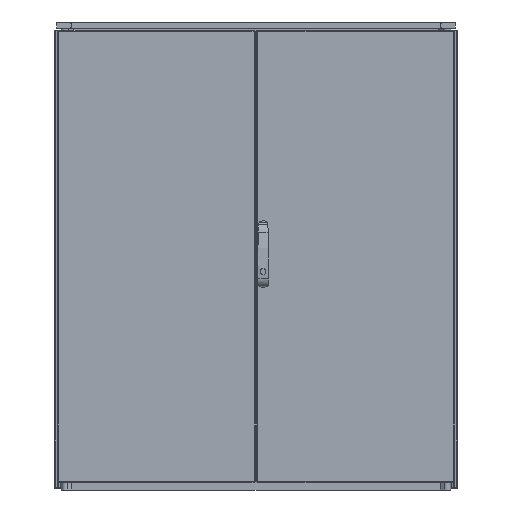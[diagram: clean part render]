
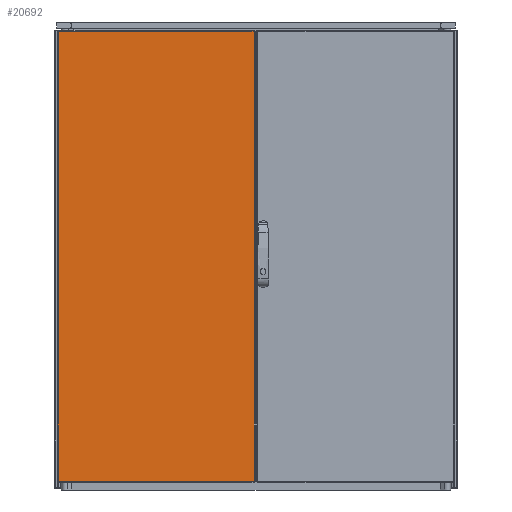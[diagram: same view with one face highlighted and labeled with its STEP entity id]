
A CAD part, front view. The second image highlights one B-rep face of the part: STEP entity #20692.
In plain terms, the highlighted planar face has unit normal (0, -1, 0).
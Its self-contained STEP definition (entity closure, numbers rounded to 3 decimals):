
#5437=ORIENTED_EDGE('',*,*,#9586,.T.);
#5438=ORIENTED_EDGE('',*,*,#9587,.T.);
#5439=ORIENTED_EDGE('',*,*,#9588,.T.);
#5440=ORIENTED_EDGE('',*,*,#9589,.T.);
#9586=EDGE_CURVE('',#11941,#11942,#13953,.F.);
#9587=EDGE_CURVE('',#11942,#11943,#13954,.F.);
#9588=EDGE_CURVE('',#11943,#11944,#13955,.F.);
#9589=EDGE_CURVE('',#11944,#11941,#13956,.F.);
#11941=VERTEX_POINT('',#33819);
#11942=VERTEX_POINT('',#33820);
#11943=VERTEX_POINT('',#33822);
#11944=VERTEX_POINT('',#33824);
#13953=LINE('',#33818,#15994);
#13954=LINE('',#33821,#15995);
#13955=LINE('',#33823,#15996);
#13956=LINE('',#33825,#15997);
#15994=VECTOR('',#27143,1000.);
#15995=VECTOR('',#27144,1000.);
#15996=VECTOR('',#27145,1000.);
#15997=VECTOR('',#27146,1000.);
#17502=EDGE_LOOP('',(#5437,#5438,#5439,#5440));
#18789=FACE_BOUND('',#17502,.T.);
#19705=PLANE('',#22518);
#20692=ADVANCED_FACE('',(#18789),#19705,.F.);
#22518=AXIS2_PLACEMENT_3D('',#33817,#27141,#27142);
#27141=DIRECTION('',(0.,1.,0.));
#27142=DIRECTION('',(0.,0.,1.));
#27143=DIRECTION('',(0.,0.,-1.));
#27144=DIRECTION('',(1.,0.,0.));
#27145=DIRECTION('',(0.,0.,1.));
#27146=DIRECTION('',(-1.,0.,0.));
#33817=CARTESIAN_POINT('',(0.,0.,0.));
#33818=CARTESIAN_POINT('',(294.5,0.,0.));
#33819=CARTESIAN_POINT('',(294.5,0.,-677.));
#33820=CARTESIAN_POINT('',(294.5,0.,677.));
#33821=CARTESIAN_POINT('',(0.,0.,677.));
#33822=CARTESIAN_POINT('',(-294.5,0.,677.));
#33823=CARTESIAN_POINT('',(-294.5,0.,0.));
#33824=CARTESIAN_POINT('',(-294.5,0.,-677.));
#33825=CARTESIAN_POINT('',(0.,0.,-677.));
